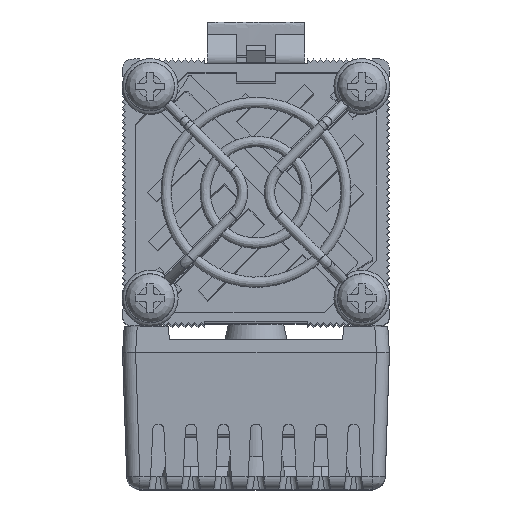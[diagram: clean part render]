
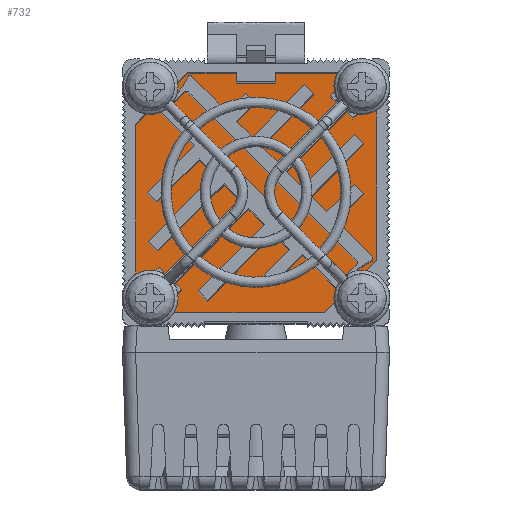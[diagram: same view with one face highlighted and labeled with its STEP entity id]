
A CAD part, top view. The second image highlights one B-rep face of the part: STEP entity #732.
In plain terms, the highlighted planar face has unit normal (0, 0, 1).
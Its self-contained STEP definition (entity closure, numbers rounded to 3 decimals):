
#732=ADVANCED_FACE('',(#1819),#17126,.T.);
#1819=FACE_OUTER_BOUND('',#2906,.T.);
#2906=EDGE_LOOP('',(#4073,#4074,#4075,#4076));
#4073=ORIENTED_EDGE('',*,*,#9560,.F.);
#4074=ORIENTED_EDGE('',*,*,#9558,.F.);
#4075=ORIENTED_EDGE('',*,*,#9556,.F.);
#4076=ORIENTED_EDGE('',*,*,#9554,.F.);
#9554=EDGE_CURVE('',#15041,#15042,#13857,.T.);
#9556=EDGE_CURVE('',#15042,#15043,#13858,.T.);
#9558=EDGE_CURVE('',#15043,#15044,#13859,.T.);
#9560=EDGE_CURVE('',#15044,#15041,#13860,.T.);
#13857=(
BOUNDED_CURVE()
B_SPLINE_CURVE(3,(#20387,#20388,#20389,#20390),.UNSPECIFIED.,.F.,.F.)
B_SPLINE_CURVE_WITH_KNOTS((4,4),(0.005,2.566),
 .UNSPECIFIED.)
CURVE()
GEOMETRIC_REPRESENTATION_ITEM()
RATIONAL_B_SPLINE_CURVE((1.,1.,1.,1.))
REPRESENTATION_ITEM('')
);
#13858=(
BOUNDED_CURVE()
B_SPLINE_CURVE(3,(#20393,#20394,#20395,#20396,#20397,#20398,#20399,#20400,
#20401,#20402,#20403,#20404,#20405,#20406,#20407,#20408,#20409,#20410,#20411,
#20412,#20413,#20414,#20415,#20416,#20417,#20418,#20419,#20420),
 .UNSPECIFIED.,.F.,.F.)
B_SPLINE_CURVE_WITH_KNOTS((4,3,3,3,3,3,3,3,3,4),(2.566,30.266,
36.549,68.549,74.833,106.833,113.116,
145.116,151.399,154.399),.UNSPECIFIED.)
CURVE()
GEOMETRIC_REPRESENTATION_ITEM()
RATIONAL_B_SPLINE_CURVE((1.,1.,1.,1.,0.805,0.805,
1.,1.,1.,1.,0.805,0.805,1.,1.,1.,1.,0.805,
0.805,1.,1.,1.,1.,0.805,0.805,1.,1.,
1.,1.))
REPRESENTATION_ITEM('')
);
#13859=(
BOUNDED_CURVE()
B_SPLINE_CURVE(3,(#20423,#20424,#20425,#20426),.UNSPECIFIED.,.F.,.F.)
B_SPLINE_CURVE_WITH_KNOTS((4,4),(154.399,157.907),
 .UNSPECIFIED.)
CURVE()
GEOMETRIC_REPRESENTATION_ITEM()
RATIONAL_B_SPLINE_CURVE((1.,1.,1.,1.))
REPRESENTATION_ITEM('')
);
#13860=(
BOUNDED_CURVE()
B_SPLINE_CURVE(3,(#20429,#20430,#20431,#20432),.UNSPECIFIED.,.F.,.F.)
B_SPLINE_CURVE_WITH_KNOTS((4,4),(157.907,159.515),
 .UNSPECIFIED.)
CURVE()
GEOMETRIC_REPRESENTATION_ITEM()
RATIONAL_B_SPLINE_CURVE((1.,1.,1.,1.))
REPRESENTATION_ITEM('')
);
#15041=VERTEX_POINT('',#20257);
#15042=VERTEX_POINT('',#20258);
#15043=VERTEX_POINT('',#20259);
#15044=VERTEX_POINT('',#20260);
#17126=PLANE('',#17925);
#17925=AXIS2_PLACEMENT_3D('',#19508,#18708,$);
#18708=DIRECTION('',(0.,0.,1.));
#19508=CARTESIAN_POINT('',(67.2,42.9,11.));
#20257=CARTESIAN_POINT('',(98.9,5.461,11.));
#20258=CARTESIAN_POINT('',(98.9,2.9,11.));
#20259=CARTESIAN_POINT('',(100.2,2.9,11.));
#20260=CARTESIAN_POINT('',(100.2,6.408,11.));
#20387=CARTESIAN_POINT('',(98.9,5.461,11.));
#20388=CARTESIAN_POINT('',(98.9,4.608,11.));
#20389=CARTESIAN_POINT('',(98.9,3.754,11.));
#20390=CARTESIAN_POINT('',(98.9,2.9,11.));
#20393=CARTESIAN_POINT('',(98.9,2.9,11.));
#20394=CARTESIAN_POINT('',(89.667,2.9,11.));
#20395=CARTESIAN_POINT('',(80.433,2.9,11.));
#20396=CARTESIAN_POINT('',(71.2,2.9,11.));
#20397=CARTESIAN_POINT('',(68.857,2.9,11.));
#20398=CARTESIAN_POINT('',(67.2,4.557,11.));
#20399=CARTESIAN_POINT('',(67.2,6.9,11.));
#20400=CARTESIAN_POINT('',(67.2,17.567,11.));
#20401=CARTESIAN_POINT('',(67.2,28.233,11.));
#20402=CARTESIAN_POINT('',(67.2,38.9,11.));
#20403=CARTESIAN_POINT('',(67.2,41.243,11.));
#20404=CARTESIAN_POINT('',(68.857,42.9,11.));
#20405=CARTESIAN_POINT('',(71.2,42.9,11.));
#20406=CARTESIAN_POINT('',(81.867,42.9,11.));
#20407=CARTESIAN_POINT('',(92.533,42.9,11.));
#20408=CARTESIAN_POINT('',(103.2,42.9,11.));
#20409=CARTESIAN_POINT('',(105.543,42.9,11.));
#20410=CARTESIAN_POINT('',(107.2,41.243,11.));
#20411=CARTESIAN_POINT('',(107.2,38.9,11.));
#20412=CARTESIAN_POINT('',(107.2,28.233,11.));
#20413=CARTESIAN_POINT('',(107.2,17.567,11.));
#20414=CARTESIAN_POINT('',(107.2,6.9,11.));
#20415=CARTESIAN_POINT('',(107.2,4.557,11.));
#20416=CARTESIAN_POINT('',(105.543,2.9,11.));
#20417=CARTESIAN_POINT('',(103.2,2.9,11.));
#20418=CARTESIAN_POINT('',(102.2,2.9,11.));
#20419=CARTESIAN_POINT('',(101.2,2.9,11.));
#20420=CARTESIAN_POINT('',(100.2,2.9,11.));
#20423=CARTESIAN_POINT('',(100.2,2.9,11.));
#20424=CARTESIAN_POINT('',(100.2,4.069,11.));
#20425=CARTESIAN_POINT('',(100.2,5.238,11.));
#20426=CARTESIAN_POINT('',(100.2,6.408,11.));
#20429=CARTESIAN_POINT('',(100.2,6.408,11.));
#20430=CARTESIAN_POINT('',(99.779,6.076,11.));
#20431=CARTESIAN_POINT('',(99.345,5.76,11.));
#20432=CARTESIAN_POINT('',(98.9,5.461,11.));
